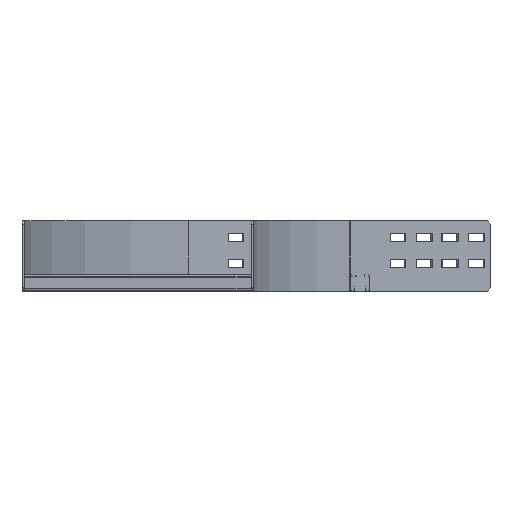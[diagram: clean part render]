
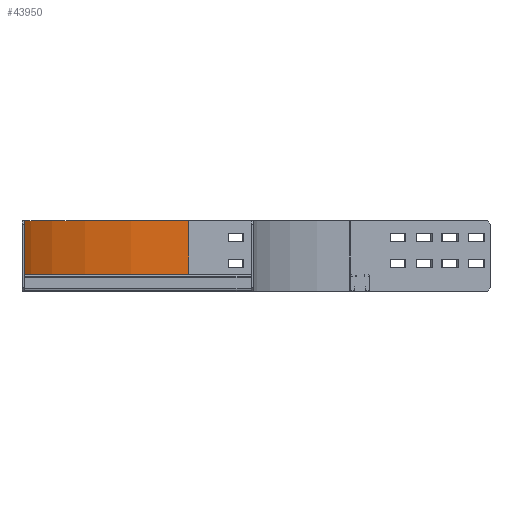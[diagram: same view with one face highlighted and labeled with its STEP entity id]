
A CAD part, left-side view. The second image highlights one B-rep face of the part: STEP entity #43950.
In plain terms, the highlighted cylindrical face has radius 755 mm (diameter 1510 mm), a partial arc.
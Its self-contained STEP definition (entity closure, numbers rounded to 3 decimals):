
#36780=CARTESIAN_POINT('',(0.,401.,-50.))
;
#36790=VERTEX_POINT('',#36780);
#36820=CARTESIAN_POINT('',(0.,401.,-50.))
;
#36830=DIRECTION('',(0.,0.,1.));
#36840=VECTOR('',#36830,1.);
#36850=LINE('',#36820,#36840);
#36860=CARTESIAN_POINT('',(0.,401.,-145.));
#36870=VERTEX_POINT('',#36860);
#36880=EDGE_CURVE('',#36870,#36790,#36850,.T.);
#41830=CARTESIAN_POINT('',(0.,-354.,-145.));
#41840=DIRECTION('',(0.,0.,1.));
#41850=DIRECTION('',(-0.707,-0.707,0.));
#41860=AXIS2_PLACEMENT_3D('',#41830,#41840,#41850);
#41870=CIRCLE('',#41860,755.);
#41880=CARTESIAN_POINT('',(533.866,179.866,-145.));
#41890=VERTEX_POINT('',#41880);
#41900=EDGE_CURVE('',#41890,#36870,#41870,.T.);
#43530=CARTESIAN_POINT('',(533.866,179.866,
-50.));
#43540=VERTEX_POINT('',#43530);
#43570=CARTESIAN_POINT('',(0.,-354.,-50.)
);
#43580=DIRECTION('',(0.,0.,1.));
#43590=DIRECTION('',(-0.707,-0.707,0.));
#43600=AXIS2_PLACEMENT_3D('',#43570,#43580,#43590);
#43610=CIRCLE('',#43600,755.);
#43620=EDGE_CURVE('',#43540,#36790,#43610,.T.);
#43790=CARTESIAN_POINT('',(0.,-354.,-50.)
);
#43800=DIRECTION('',(0.,0.,1.));
#43810=DIRECTION('',(-0.707,-0.707,0.));
#43820=AXIS2_PLACEMENT_3D('',#43790,#43800,#43810);
#43830=CYLINDRICAL_SURFACE('',#43820,755.);
#43840=CARTESIAN_POINT('',(533.866,179.866,0.));
#43850=DIRECTION('',(0.,0.,-1.));
#43860=VECTOR('',#43850,1.);
#43870=LINE('',#43840,#43860);
#43880=EDGE_CURVE('',#43540,#41890,#43870,.T.);
#43890=ORIENTED_EDGE('',*,*,#43880,.F.);
#43900=ORIENTED_EDGE('',*,*,#41900,.F.);
#43910=ORIENTED_EDGE('',*,*,#36880,.F.);
#43920=ORIENTED_EDGE('',*,*,#43620,.T.);
#43930=EDGE_LOOP('',(#43920,#43910,#43900,#43890));
#43940=FACE_OUTER_BOUND('',#43930,.T.);
#43950=ADVANCED_FACE('',(#43940),#43830,.F.);
